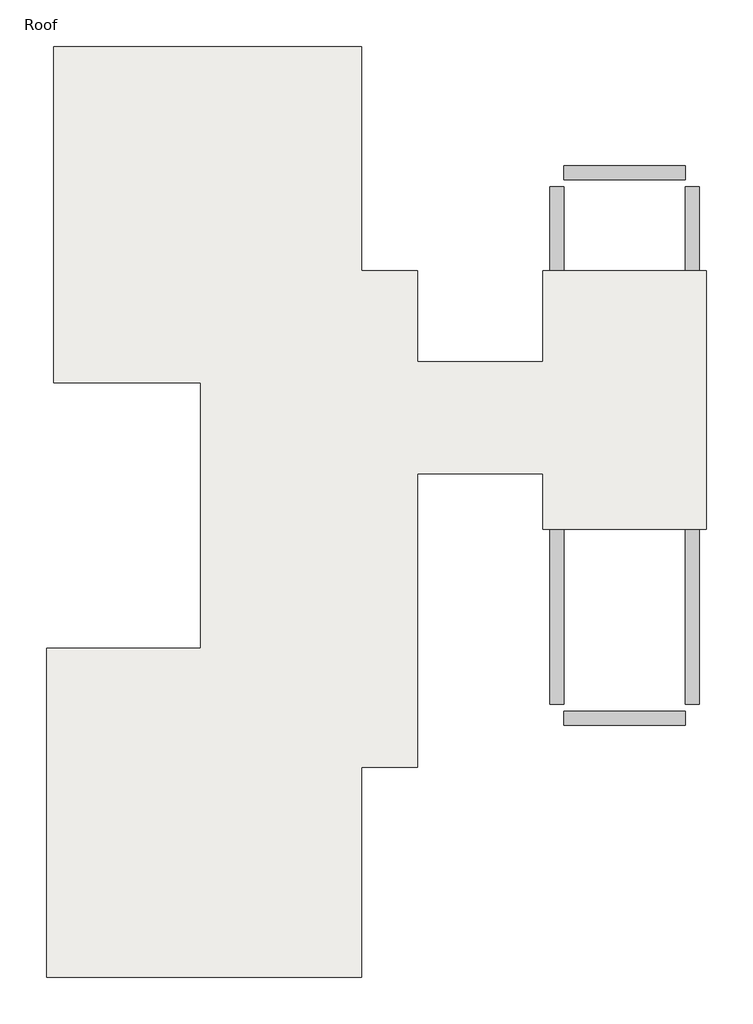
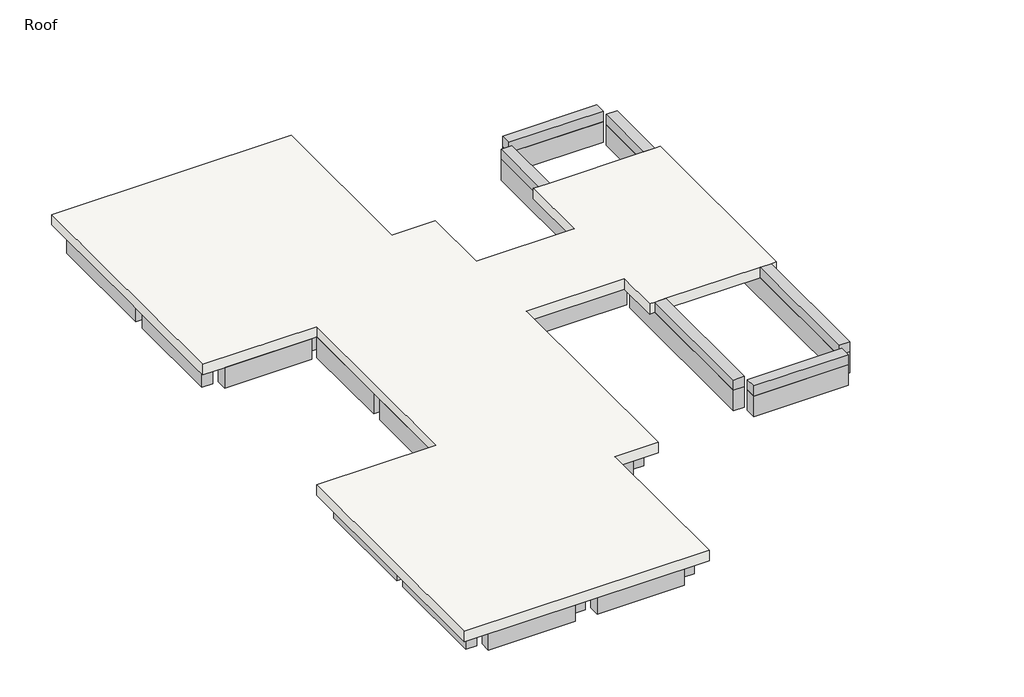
# One storey: 51 beams, 1 slab.
"""IFC4 building model written with IfcOpenShell, lengths in millimetres."""

from ifc_helpers import new_model, si_unit, frame, origin, place, context, project, spatial, polyline, outline, extrude, faceted_brep, element, save

model = new_model("IFC4")

# Units and contexts
model_context = context("Model", 3, world=origin())
ifc_project = project(units=[si_unit("LENGTHUNIT", "METRE", prefix="MILLI")], contexts=[model_context])

# Site, building, storey
site = spatial("IfcSite", under=ifc_project)
building = spatial("IfcBuilding", under=site)
storey = spatial("IfcBuildingStorey", under=building, Name="Roof", Elevation=7620.0)

# Beams
placement = place(None, origin())
element("IfcBeam", 1, ObjectType="Concrete-Rectangular Beam : 12 x 24", at=placement, inside=storey, context=model_context, shape_type="SweptSolid", body=[
    extrude(outline(polyline([(-28276.2572388, 22716.8740068), (-28276.2572388, 23021.6740068), (-25837.8572388, 23021.6740068), (-25837.8572388, 22716.8740068), (-28276.2572388, 22716.8740068)])), frame((0.0, 0.0, 6705.6), z_axis=(0.0, 0.0, 1.0), x_axis=(1.0, 0.0, 0.0)), (0.0, 0.0, 1.0), 609.6),
])
element("IfcBeam", 2, ObjectType="Concrete-Rectangular Beam : 12 x 24", at=placement, inside=storey, context=model_context, shape_type="SweptSolid", body=[
    extrude(outline(polyline([(-25228.2572388, 22716.8740068), (-25228.2572388, 23021.6740068), (-22789.8572388, 23021.6740068), (-22789.8572388, 22716.8740068), (-25228.2572388, 22716.8740068)])), frame((0.0, 0.0, 6705.6), z_axis=(0.0, 0.0, 1.0), x_axis=(1.0, 0.0, 0.0)), (0.0, 0.0, 1.0), 609.6),
])
element("IfcBeam", 3, ObjectType="Concrete-Rectangular Beam : 12 x 24", at=placement, inside=storey, context=model_context, shape_type="SweptSolid", body=[
    extrude(outline(polyline([(-22637.4572388, 22716.8740068), (-22332.6572388, 22716.8740068), (-22332.6572388, 19364.0740068), (-22637.4572388, 19364.0740068), (-22637.4572388, 22716.8740068)])), frame((0.0, 0.0, 6705.6), z_axis=(0.0, 0.0, 1.0), x_axis=(1.0, 0.0, 0.0)), (0.0, 0.0, 1.0), 609.6),
])
element("IfcBeam", 4, ObjectType="Concrete-Rectangular Beam : 12 x 24", at=placement, inside=storey, context=model_context, shape_type="SweptSolid", body=[
    extrude(outline(polyline([(-25228.2572388, 19059.2740068), (-25228.2572388, 19364.0740068), (-22789.8572388, 19364.0740068), (-22789.8572388, 19059.2740068), (-25228.2572388, 19059.2740068)])), frame((0.0, 0.0, 6705.6), z_axis=(0.0, 0.0, 1.0), x_axis=(1.0, 0.0, 0.0)), (0.0, 0.0, 1.0), 609.6),
])
element("IfcBeam", 5, ObjectType="Concrete-Rectangular Beam : 12 x 24", at=placement, inside=storey, context=model_context, shape_type="SweptSolid", body=[
    extrude(outline(polyline([(-25380.6572388, 22716.8740068), (-25380.6572388, 19364.0740068), (-25685.4572388, 19364.0740068), (-25685.4572388, 22716.8740068), (-25380.6572388, 22716.8740068)])), frame((0.0, 0.0, 6705.6), z_axis=(0.0, 0.0, 1.0), x_axis=(1.0, 0.0, 0.0)), (0.0, 0.0, 1.0), 609.6),
])
element("IfcBeam", 6, ObjectType="Concrete-Rectangular Beam : 12 x 24", at=placement, inside=storey, context=model_context, shape_type="SweptSolid", body=[
    extrude(outline(polyline([(-28276.2572388, 19059.2740068), (-28276.2572388, 19364.0740068), (-25837.8572388, 19364.0740068), (-25837.8572388, 19059.2740068), (-28276.2572388, 19059.2740068)])), frame((0.0, 0.0, 6705.6), z_axis=(0.0, 0.0, 1.0), x_axis=(1.0, 0.0, 0.0)), (0.0, 0.0, 1.0), 609.6),
])
element("IfcBeam", 7, ObjectType="Concrete-Rectangular Beam : 12 x 24", at=placement, inside=storey, context=model_context, shape_type="SweptSolid", body=[
    extrude(outline(polyline([(-28733.4572388, 22716.8740068), (-28428.6572388, 22716.8740068), (-28428.6572388, 19364.0740068), (-28733.4572388, 19364.0740068), (-28733.4572388, 22716.8740068)])), frame((0.0, 0.0, 6705.6), z_axis=(0.0, 0.0, 1.0), x_axis=(1.0, 0.0, 0.0)), (0.0, 0.0, 1.0), 609.6),
])
element("IfcBeam", 8, ObjectType="Concrete-Rectangular Beam : 12 x 24", at=placement, inside=storey, context=model_context, shape_type="SweptSolid", body=[
    extrude(outline(polyline([(-28733.4572388, 19059.2740068), (-28428.6572388, 19059.2740068), (-28428.6572388, 16163.6740068), (-28733.4572388, 16163.6740068), (-28733.4572388, 19059.2740068)])), frame((0.0, 0.0, 6705.6), z_axis=(0.0, 0.0, 1.0), x_axis=(1.0, 0.0, 0.0)), (0.0, 0.0, 1.0), 609.6),
])
element("IfcBeam", 9, ObjectType="Concrete-Rectangular Beam : 12 x 24", at=placement, inside=storey, context=model_context, shape_type="SweptSolid", body=[
    extrude(outline(polyline([(-28276.2572388, 15858.8740068), (-28276.2572388, 16163.6740068), (-25837.8572388, 16163.6740068), (-25837.8572388, 15858.8740068), (-28276.2572388, 15858.8740068)])), frame((0.0, 0.0, 6705.6), z_axis=(0.0, 0.0, 1.0), x_axis=(1.0, 0.0, 0.0)), (0.0, 0.0, 1.0), 609.6),
])
element("IfcBeam", 10, ObjectType="Concrete-Rectangular Beam : 12 x 24", at=placement, inside=storey, context=model_context, shape_type="SweptSolid", body=[
    extrude(outline(polyline([(-25685.4572388, 19059.2740068), (-25380.6572388, 19059.2740068), (-25380.6572388, 16163.6740068), (-25685.4572388, 16163.6740068), (-25685.4572388, 19059.2740068)])), frame((0.0, 0.0, 6705.6), z_axis=(0.0, 0.0, 1.0), x_axis=(1.0, 0.0, 0.0)), (0.0, 0.0, 1.0), 609.6),
])
element("IfcBeam", 11, ObjectType="Concrete-Rectangular Beam : 12 x 24", at=placement, inside=storey, context=model_context, shape_type="SweptSolid", body=[
    extrude(outline(polyline([(-25228.2572388, 15858.8740068), (-25228.2572388, 16163.6740068), (-21570.6572388, 16163.6740068), (-21570.6572388, 15858.8740068), (-25228.2572388, 15858.8740068)])), frame((0.0, 0.0, 6705.6), z_axis=(0.0, 0.0, 1.0), x_axis=(1.0, 0.0, 0.0)), (0.0, 0.0, 1.0), 609.6),
])
element("IfcBeam", 12, ObjectType="Concrete-Rectangular Beam : 12 x 24", at=placement, inside=storey, context=model_context, shape_type="SweptSolid", body=[
    extrude(outline(polyline([(-21418.2572388, 17840.0740068), (-21113.4572388, 17840.0740068), (-21113.4572388, 16163.6740068), (-21418.2572388, 16163.6740068), (-21418.2572388, 17840.0740068)])), frame((0.0, 0.0, 6705.6), z_axis=(0.0, 0.0, 1.0), x_axis=(1.0, 0.0, 0.0)), (0.0, 0.0, 1.0), 609.6),
])
element("IfcBeam", 13, ObjectType="Concrete-Rectangular Beam : 12 x 24", at=placement, inside=storey, context=model_context, shape_type="Brep", body=[
    faceted_brep([(-22637.4572388, 18144.8740068, 7315.2), (-22637.4572388, 17840.0740068, 7315.2), (-21570.6572388, 17840.0740068, 7315.2), (-21570.6572388, 18144.8740068, 7315.2), (-22332.6572388, 18144.8740068, 7315.2), (-22637.4572388, 18144.8740068, 6705.6), (-21570.6572388, 18144.8740068, 6705.6), (-22332.6572388, 18144.8740068, 6705.6), (-22637.4572388, 17840.0740068, 6705.6), (-21570.6572388, 17840.0740068, 6705.6)], [[[0, 1, 2, 3, 4]], [[5, 0, 4, 3, 6, 7]], [[8, 5, 7, 6, 9]], [[1, 8, 9, 2]], [[3, 2, 9, 6]], [[1, 0, 5, 8]]]),
])
element("IfcBeam", 14, ObjectType="Concrete-Rectangular Beam : 12 x 24", at=placement, inside=storey, context=model_context, shape_type="SweptSolid", body=[
    extrude(outline(polyline([(-22637.4572388, 19059.2740068), (-22332.6572388, 19059.2740068), (-22332.6572388, 18144.8740068), (-22637.4572388, 18144.8740068), (-22637.4572388, 19059.2740068)])), frame((0.0, 0.0, 6705.6), z_axis=(0.0, 0.0, 1.0), x_axis=(1.0, 0.0, 0.0)), (0.0, 0.0, 1.0), 609.6),
])
element("IfcBeam", 15, ObjectType="Concrete-Rectangular Beam : 12 x 24", at=placement, inside=storey, context=model_context, shape_type="SweptSolid", body=[
    extrude(outline(polyline([(-20961.0572388, 15858.8740068), (-20961.0572388, 16163.6740068), (-18065.4572388, 16163.6740068), (-18065.4572388, 15858.8740068), (-20961.0572388, 15858.8740068)])), frame((0.0, 0.0, 6705.6), z_axis=(0.0, 0.0, 1.0), x_axis=(1.0, 0.0, 0.0)), (0.0, 0.0, 1.0), 609.6),
])
element("IfcBeam", 16, ObjectType="Concrete-Rectangular Beam : 12 x 24", at=placement, inside=storey, context=model_context, shape_type="SweptSolid", body=[
    extrude(outline(polyline([(-17760.6572388, 15858.8740068), (-17760.6572388, 16163.6740068), (-15119.0572388, 16163.6740068), (-15119.0572388, 15858.8740068), (-17760.6572388, 15858.8740068)])), frame((0.0, 0.0, 6705.6), z_axis=(0.0, 0.0, 1.0), x_axis=(1.0, 0.0, 0.0)), (0.0, 0.0, 1.0), 609.6),
])
element("IfcBeam", 17, ObjectType="Concrete-Rectangular Beam : 12 x 24", at=placement, inside=storey, context=model_context, shape_type="Brep", body=[
    faceted_brep([(-21113.4572388, 15858.8740068, 7315.2), (-21418.2572388, 15858.8740068, 7315.2), (-21418.2572388, 13115.6740068, 7315.2), (-21113.4572388, 13115.6740068, 7315.2), (-21113.4572388, 14030.0740068, 7315.2), (-21113.4572388, 14334.8740068, 7315.2), (-21113.4572388, 15858.8740068, 6705.6), (-21113.4572388, 13115.6740068, 6705.6), (-21113.4572388, 14030.0740068, 6705.6), (-21113.4572388, 14334.8740068, 6705.6), (-21418.2572388, 15858.8740068, 6705.6), (-21418.2572388, 13115.6740068, 6705.6)], [[[0, 1, 2, 3, 4, 5]], [[6, 0, 5, 4, 3, 7, 8, 9]], [[10, 6, 9, 8, 7, 11]], [[1, 10, 11, 2]], [[10, 1, 0, 6]], [[3, 2, 11, 7]]]),
])
element("IfcBeam", 18, ObjectType="Concrete-Rectangular Beam : 12 x 24", at=placement, inside=storey, context=model_context, shape_type="SweptSolid", body=[
    extrude(outline(polyline([(-18065.4572388, 14334.8740068), (-18065.4572388, 14030.0740068), (-21113.4572388, 14030.0740068), (-21113.4572388, 14334.8740068), (-18065.4572388, 14334.8740068)])), frame((0.0, 0.0, 6705.6), z_axis=(0.0, 0.0, 1.0), x_axis=(1.0, 0.0, 0.0)), (0.0, 0.0, 1.0), 609.6),
])
element("IfcBeam", 19, ObjectType="Concrete-Rectangular Beam : 12 x 24", at=placement, inside=storey, context=model_context, shape_type="SweptSolid", body=[
    extrude(outline(polyline([(-17760.6572388, 14030.0740068), (-17760.6572388, 14334.8740068), (-15119.0572388, 14334.8740068), (-15119.0572388, 14030.0740068), (-17760.6572388, 14030.0740068)])), frame((0.0, 0.0, 6705.6), z_axis=(0.0, 0.0, 1.0), x_axis=(1.0, 0.0, 0.0)), (0.0, 0.0, 1.0), 609.6),
])
element("IfcBeam", 20, ObjectType="Concrete-Rectangular Beam : 12 x 24", at=placement, inside=storey, context=model_context, shape_type="SweptSolid", body=[
    extrude(outline(polyline([(-25685.4572388, 15858.8740068), (-25380.6572388, 15858.8740068), (-25380.6572388, 13115.6740068), (-25685.4572388, 13115.6740068), (-25685.4572388, 15858.8740068)])), frame((0.0, 0.0, 6705.6), z_axis=(0.0, 0.0, 1.0), x_axis=(1.0, 0.0, 0.0)), (0.0, 0.0, 1.0), 609.6),
])
element("IfcBeam", 21, ObjectType="Concrete-Rectangular Beam : 12 x 24", at=placement, inside=storey, context=model_context, shape_type="SweptSolid", body=[
    extrude(outline(polyline([(-25228.2572388, 12810.8740068), (-25228.2572388, 13115.6740068), (-21570.6572388, 13115.6740068), (-21570.6572388, 12810.8740068), (-25228.2572388, 12810.8740068)])), frame((0.0, 0.0, 6705.6), z_axis=(0.0, 0.0, 1.0), x_axis=(1.0, 0.0, 0.0)), (0.0, 0.0, 1.0), 609.6),
])
element("IfcBeam", 22, ObjectType="Concrete-Rectangular Beam : 12 x 24", at=placement, inside=storey, context=model_context, shape_type="SweptSolid", body=[
    extrude(outline(polyline([(-25685.4572388, 12810.8740068), (-25380.6572388, 12810.8740068), (-25380.6572388, 10067.6740068), (-25685.4572388, 10067.6740068), (-25685.4572388, 12810.8740068)])), frame((0.0, 0.0, 6705.6), z_axis=(0.0, 0.0, 1.0), x_axis=(1.0, 0.0, 0.0)), (0.0, 0.0, 1.0), 609.6),
])
element("IfcBeam", 23, ObjectType="Concrete-Rectangular Beam : 12 x 24", at=placement, inside=storey, context=model_context, shape_type="SweptSolid", body=[
    extrude(outline(polyline([(-25228.2572388, 9762.8740068), (-25228.2572388, 10067.6740068), (-21570.6572388, 10067.6740068), (-21570.6572388, 9762.8740068), (-25228.2572388, 9762.8740068)])), frame((0.0, 0.0, 6705.6), z_axis=(0.0, 0.0, 1.0), x_axis=(1.0, 0.0, 0.0)), (0.0, 0.0, 1.0), 609.6),
])
element("IfcBeam", 24, ObjectType="Concrete-Rectangular Beam : 12 x 24", at=placement, inside=storey, context=model_context, shape_type="SweptSolid", body=[
    extrude(outline(polyline([(-21113.4572388, 10067.6740068), (-21418.2572388, 10067.6740068), (-21418.2572388, 12810.8740068), (-21113.4572388, 12810.8740068), (-21113.4572388, 10067.6740068)])), frame((0.0, 0.0, 6705.6), z_axis=(0.0, 0.0, 1.0), x_axis=(1.0, 0.0, 0.0)), (0.0, 0.0, 1.0), 609.6),
])
element("IfcBeam", 25, ObjectType="Concrete-Rectangular Beam : 12 x 24", at=placement, inside=storey, context=model_context, shape_type="SweptSolid", body=[
    extrude(outline(polyline([(-28276.2572388, 9762.8740068), (-28276.2572388, 10067.6740068), (-25837.8572388, 10067.6740068), (-25837.8572388, 9762.8740068), (-28276.2572388, 9762.8740068)])), frame((0.0, 0.0, 6705.6), z_axis=(0.0, 0.0, 1.0), x_axis=(1.0, 0.0, 0.0)), (0.0, 0.0, 1.0), 609.6),
])
element("IfcBeam", 26, ObjectType="Concrete-Rectangular Beam : 12 x 24", at=placement, inside=storey, context=model_context, shape_type="SweptSolid", body=[
    extrude(outline(polyline([(-28733.4572388, 9762.8740068), (-28428.6572388, 9762.8740068), (-28428.6572388, 6714.8740068), (-28733.4572388, 6714.8740068), (-28733.4572388, 9762.8740068)])), frame((0.0, 0.0, 6705.6), z_axis=(0.0, 0.0, 1.0), x_axis=(1.0, 0.0, 0.0)), (0.0, 0.0, 1.0), 609.6),
])
element("IfcBeam", 27, ObjectType="Concrete-Rectangular Beam : 12 x 24", at=placement, inside=storey, context=model_context, shape_type="SweptSolid", body=[
    extrude(outline(polyline([(-28276.2572388, 6410.0740068), (-28276.2572388, 6714.8740068), (-25837.8572388, 6714.8740068), (-25837.8572388, 6410.0740068), (-28276.2572388, 6410.0740068)])), frame((0.0, 0.0, 6705.6), z_axis=(0.0, 0.0, 1.0), x_axis=(1.0, 0.0, 0.0)), (0.0, 0.0, 1.0), 609.6),
])
element("IfcBeam", 28, ObjectType="Concrete-Rectangular Beam : 12 x 24", at=placement, inside=storey, context=model_context, shape_type="SweptSolid", body=[
    extrude(outline(polyline([(-25685.4572388, 9762.8740068), (-25380.6572388, 9762.8740068), (-25380.6572388, 6714.8740068), (-25685.4572388, 6714.8740068), (-25685.4572388, 9762.8740068)])), frame((0.0, 0.0, 6705.6), z_axis=(0.0, 0.0, 1.0), x_axis=(1.0, 0.0, 0.0)), (0.0, 0.0, 1.0), 609.6),
])
element("IfcBeam", 29, ObjectType="Concrete-Rectangular Beam : 12 x 24", at=placement, inside=storey, context=model_context, shape_type="SweptSolid", body=[
    extrude(outline(polyline([(-25228.2572388, 6410.0740068), (-25228.2572388, 6714.8740068), (-22789.8572388, 6714.8740068), (-22789.8572388, 6410.0740068), (-25228.2572388, 6410.0740068)])), frame((0.0, 0.0, 6705.6), z_axis=(0.0, 0.0, 1.0), x_axis=(1.0, 0.0, 0.0)), (0.0, 0.0, 1.0), 609.6),
])
element("IfcBeam", 30, ObjectType="Concrete-Rectangular Beam : 12 x 24", at=placement, inside=storey, context=model_context, shape_type="SweptSolid", body=[
    extrude(outline(polyline([(-21418.2572388, 9762.8740068), (-21113.4572388, 9762.8740068), (-21113.4572388, 7934.0740068), (-21418.2572388, 7934.0740068), (-21418.2572388, 9762.8740068)])), frame((0.0, 0.0, 6705.6), z_axis=(0.0, 0.0, 1.0), x_axis=(1.0, 0.0, 0.0)), (0.0, 0.0, 1.0), 609.6),
])
element("IfcBeam", 31, ObjectType="Concrete-Rectangular Beam : 12 x 24", at=placement, inside=storey, context=model_context, shape_type="Brep", body=[
    faceted_brep([(-22637.4572388, 7934.0740068, 7315.2), (-22637.4572388, 7629.2740068, 7315.2), (-22332.6572388, 7629.2740068, 7315.2), (-21570.6572388, 7629.2740068, 7315.2), (-21570.6572388, 7934.0740068, 7315.2), (-22637.4572388, 7934.0740068, 6705.6), (-21570.6572388, 7934.0740068, 6705.6), (-22637.4572388, 7629.2740068, 6705.6), (-21570.6572388, 7629.2740068, 6705.6), (-22332.6572388, 7629.2740068, 6705.6)], [[[0, 1, 2, 3, 4]], [[5, 0, 4, 6]], [[7, 5, 6, 8, 9]], [[1, 7, 9, 8, 3, 2]], [[4, 3, 8, 6]], [[1, 0, 5, 7]]]),
])
element("IfcBeam", 32, ObjectType="Concrete-Rectangular Beam : 12 x 24", at=placement, inside=storey, context=model_context, shape_type="SweptSolid", body=[
    extrude(outline(polyline([(-22332.6572388, 6714.8740068), (-22637.4572388, 6714.8740068), (-22637.4572388, 7629.2740068), (-22332.6572388, 7629.2740068), (-22332.6572388, 6714.8740068)])), frame((0.0, 0.0, 6705.6), z_axis=(0.0, 0.0, 1.0), x_axis=(1.0, 0.0, 0.0)), (0.0, 0.0, 1.0), 609.6),
])
element("IfcBeam", 33, ObjectType="Concrete-Rectangular Beam : 12 x 24", at=placement, inside=storey, context=model_context, shape_type="SweptSolid", body=[
    extrude(outline(polyline([(-22637.4572388, 6410.0740068), (-22332.6572388, 6410.0740068), (-22332.6572388, 3362.0740068), (-22637.4572388, 3362.0740068), (-22637.4572388, 6410.0740068)])), frame((0.0, 0.0, 6705.6), z_axis=(0.0, 0.0, 1.0), x_axis=(1.0, 0.0, 0.0)), (0.0, 0.0, 1.0), 609.6),
])
element("IfcBeam", 34, ObjectType="Concrete-Rectangular Beam : 12 x 24", at=placement, inside=storey, context=model_context, shape_type="SweptSolid", body=[
    extrude(outline(polyline([(-25228.2572388, 3057.2740068), (-25228.2572388, 3362.0740068), (-22789.8572388, 3362.0740068), (-22789.8572388, 3057.2740068), (-25228.2572388, 3057.2740068)])), frame((0.0, 0.0, 6705.6), z_axis=(0.0, 0.0, 1.0), x_axis=(1.0, 0.0, 0.0)), (0.0, 0.0, 1.0), 609.6),
])
element("IfcBeam", 35, ObjectType="Concrete-Rectangular Beam : 12 x 24", at=placement, inside=storey, context=model_context, shape_type="SweptSolid", body=[
    extrude(outline(polyline([(-25685.4572388, 6410.0740068), (-25380.6572388, 6410.0740068), (-25380.6572388, 3362.0740068), (-25685.4572388, 3362.0740068), (-25685.4572388, 6410.0740068)])), frame((0.0, 0.0, 6705.6), z_axis=(0.0, 0.0, 1.0), x_axis=(1.0, 0.0, 0.0)), (0.0, 0.0, 1.0), 609.6),
])
element("IfcBeam", 36, ObjectType="Concrete-Rectangular Beam : 12 x 24", at=placement, inside=storey, context=model_context, shape_type="SweptSolid", body=[
    extrude(outline(polyline([(-28733.4572388, 6410.0740068), (-28428.6572388, 6410.0740068), (-28428.6572388, 3362.0740068), (-28733.4572388, 3362.0740068), (-28733.4572388, 6410.0740068)])), frame((0.0, 0.0, 6705.6), z_axis=(0.0, 0.0, 1.0), x_axis=(1.0, 0.0, 0.0)), (0.0, 0.0, 1.0), 609.6),
])
element("IfcBeam", 37, ObjectType="Concrete-Rectangular Beam : 12 x 24", at=placement, inside=storey, context=model_context, shape_type="SweptSolid", body=[
    extrude(outline(polyline([(-28276.2572388, 3057.2740068), (-28276.2572388, 3362.0740068), (-25837.8572388, 3362.0740068), (-25837.8572388, 3057.2740068), (-28276.2572388, 3057.2740068)])), frame((0.0, 0.0, 6705.6), z_axis=(0.0, 0.0, 1.0), x_axis=(1.0, 0.0, 0.0)), (0.0, 0.0, 1.0), 609.6),
])
element("IfcBeam", 38, ObjectType="Concrete-Rectangular Beam : 12 x 24", at=placement, inside=storey, context=model_context, shape_type="Brep", body=[
    faceted_brep([(-18065.4572388, 16316.0740068, 7315.2), (-17760.6572388, 16316.0740068, 7315.2), (-17760.6572388, 18297.2740068, 7315.2), (-17760.6572388, 20126.0740068, 7315.2), (-18065.4572388, 20126.0740068, 7315.2), (-18065.4572388, 18297.2740068, 7315.2), (-17760.6572388, 16316.0740068, 6705.6), (-17760.6572388, 20126.0740068, 6705.6), (-18065.4572388, 16316.0740068, 6705.6), (-18065.4572388, 20126.0740068, 6705.6)], [[[0, 1, 2, 3, 4, 5]], [[1, 6, 7, 3, 2]], [[6, 8, 9, 7]], [[8, 0, 5, 4, 9]], [[4, 3, 7, 9]], [[1, 0, 8, 6]]]),
])
element("IfcBeam", 39, ObjectType="Concrete-Rectangular Beam : 12 x 24", at=placement, inside=storey, context=model_context, shape_type="SweptSolid", body=[
    extrude(outline(polyline([(-17760.6572388, 20278.4740068), (-17760.6572388, 20583.2740068), (-15119.0572388, 20583.2740068), (-15119.0572388, 20278.4740068), (-17760.6572388, 20278.4740068)])), frame((0.0, 0.0, 6705.6), z_axis=(0.0, 0.0, 1.0), x_axis=(1.0, 0.0, 0.0)), (0.0, 0.0, 1.0), 609.6),
])
element("IfcBeam", 40, ObjectType="Concrete-Rectangular Beam : 12 x 24", at=placement, inside=storey, context=model_context, shape_type="Brep", body=[
    faceted_brep([(-15119.0572388, 16316.0740068, 7315.2), (-14814.2572388, 16316.0740068, 7315.2), (-14814.2572388, 18297.2740068, 7315.2), (-14814.2572388, 20126.0740068, 7315.2), (-15119.0572388, 20126.0740068, 7315.2), (-15119.0572388, 18297.2740068, 7315.2), (-15119.0572388, 16316.0740068, 6705.6), (-15119.0572388, 20126.0740068, 6705.6), (-14814.2572388, 16316.0740068, 6705.6), (-14814.2572388, 20126.0740068, 6705.6)], [[[0, 1, 2, 3, 4, 5]], [[6, 0, 5, 4, 7]], [[8, 6, 7, 9]], [[1, 8, 9, 3, 2]], [[4, 3, 9, 7]], [[1, 0, 6, 8]]]),
])
element("IfcBeam", 41, ObjectType="Concrete-Rectangular Beam : 12 x 24", at=placement, inside=storey, context=model_context, shape_type="SweptSolid", body=[
    extrude(outline(polyline([(-15119.0572388, 15706.4740068), (-14814.2572388, 15706.4740068), (-14814.2572388, 14487.2740068), (-15119.0572388, 14487.2740068), (-15119.0572388, 15706.4740068)])), frame((0.0, 0.0, 6705.6), z_axis=(0.0, 0.0, 1.0), x_axis=(1.0, 0.0, 0.0)), (0.0, 0.0, 1.0), 609.6),
])
element("IfcBeam", 42, ObjectType="Concrete-Rectangular Beam : 12 x 24", at=placement, inside=storey, context=model_context, shape_type="Brep", body=[
    faceted_brep([(-14814.2572388, 13877.6740068, 7315.2), (-15119.0572388, 13877.6740068, 7315.2), (-15119.0572388, 12658.4740068, 7315.2), (-15119.0572388, 8848.4740068, 7315.2), (-14814.2572388, 8848.4740068, 7315.2), (-14814.2572388, 12658.4740068, 7315.2), (-15119.0572388, 13877.6740068, 6705.6), (-15119.0572388, 8848.4740068, 6705.6), (-14814.2572388, 13877.6740068, 6705.6), (-14814.2572388, 8848.4740068, 6705.6)], [[[0, 1, 2, 3, 4, 5]], [[1, 6, 7, 3, 2]], [[6, 8, 9, 7]], [[8, 0, 5, 4, 9]], [[4, 3, 7, 9]], [[1, 0, 8, 6]]]),
])
element("IfcBeam", 43, ObjectType="Concrete-Rectangular Beam : 12 x 24", at=placement, inside=storey, context=model_context, shape_type="SweptSolid", body=[
    extrude(outline(polyline([(-17760.6572388, 8391.2740068), (-17760.6572388, 8696.0740068), (-15119.0572388, 8696.0740068), (-15119.0572388, 8391.2740068), (-17760.6572388, 8391.2740068)])), frame((0.0, 0.0, 6705.6), z_axis=(0.0, 0.0, 1.0), x_axis=(1.0, 0.0, 0.0)), (0.0, 0.0, 1.0), 609.6),
])
element("IfcBeam", 44, ObjectType="Concrete-Rectangular Beam : 12 x 24", at=placement, inside=storey, context=model_context, shape_type="Brep", body=[
    faceted_brep([(-17760.6572388, 13877.6740068, 7315.2), (-18065.4572388, 13877.6740068, 7315.2), (-18065.4572388, 12658.4740068, 7315.2), (-18065.4572388, 8848.4740068, 7315.2), (-17760.6572388, 8848.4740068, 7315.2), (-17760.6572388, 12658.4740068, 7315.2), (-17760.6572388, 13877.6740068, 6705.6), (-17760.6572388, 8848.4740068, 6705.6), (-18065.4572388, 13877.6740068, 6705.6), (-18065.4572388, 8848.4740068, 6705.6)], [[[0, 1, 2, 3, 4, 5]], [[6, 0, 5, 4, 7]], [[8, 6, 7, 9]], [[1, 8, 9, 3, 2]], [[4, 3, 9, 7]], [[1, 0, 6, 8]]]),
])
element("IfcBeam", 45, ObjectType="Concrete-Rectangular Beam : 12 x 24", at=placement, inside=storey, context=model_context, shape_type="SweptSolid", body=[
    extrude(outline(polyline([(-18065.4572388, 15706.4740068), (-17760.6572388, 15706.4740068), (-17760.6572388, 14487.2740068), (-18065.4572388, 14487.2740068), (-18065.4572388, 15706.4740068)])), frame((0.0, 0.0, 6705.6), z_axis=(0.0, 0.0, 1.0), x_axis=(1.0, 0.0, 0.0)), (0.0, 0.0, 1.0), 609.6),
])
element("IfcBeam", 46, ObjectType="Concrete-Rectangular Beam : 12 x 24", at=placement, inside=storey, context=model_context, shape_type="SweptSolid", body=[
    extrude(outline(polyline([(-17760.6572388, 8848.4740068), (-18065.4572388, 8848.4740068), (-18065.4572388, 12658.4740068), (-17760.6572388, 12658.4740068), (-17760.6572388, 8848.4740068)])), frame((0.0, 0.0, 7315.2), z_axis=(0.0, 0.0, 1.0), x_axis=(1.0, 0.0, 0.0)), (0.0, 0.0, 1.0), 304.8),
])
element("IfcBeam", 47, ObjectType="Concrete-Rectangular Beam : 12 x 24", at=placement, inside=storey, context=model_context, shape_type="SweptSolid", body=[
    extrude(outline(polyline([(-18065.4572388, 20126.0740068), (-17760.6572388, 20126.0740068), (-17760.6572388, 18297.2740068), (-18065.4572388, 18297.2740068), (-18065.4572388, 20126.0740068)])), frame((0.0, 0.0, 7315.2), z_axis=(0.0, 0.0, 1.0), x_axis=(1.0, 0.0, 0.0)), (0.0, 0.0, 1.0), 304.8),
])
element("IfcBeam", 48, ObjectType="Concrete-Rectangular Beam : 12 x 24", at=placement, inside=storey, context=model_context, shape_type="SweptSolid", body=[
    extrude(outline(polyline([(-17760.6572388, 20278.4740068), (-17760.6572388, 20583.2740068), (-15119.0572388, 20583.2740068), (-15119.0572388, 20278.4740068), (-17760.6572388, 20278.4740068)])), frame((0.0, 0.0, 7315.2), z_axis=(0.0, 0.0, 1.0), x_axis=(1.0, 0.0, 0.0)), (0.0, 0.0, 1.0), 304.8),
])
element("IfcBeam", 49, ObjectType="Concrete-Rectangular Beam : 12 x 24", at=placement, inside=storey, context=model_context, shape_type="SweptSolid", body=[
    extrude(outline(polyline([(-15119.0572388, 20126.0740068), (-14814.2572388, 20126.0740068), (-14814.2572388, 18297.2740068), (-15119.0572388, 18297.2740068), (-15119.0572388, 20126.0740068)])), frame((0.0, 0.0, 7315.2), z_axis=(0.0, 0.0, 1.0), x_axis=(1.0, 0.0, 0.0)), (0.0, 0.0, 1.0), 304.8),
])
element("IfcBeam", 50, ObjectType="Concrete-Rectangular Beam : 12 x 24", at=placement, inside=storey, context=model_context, shape_type="SweptSolid", body=[
    extrude(outline(polyline([(-14814.2572388, 8848.4740068), (-15119.0572388, 8848.4740068), (-15119.0572388, 12658.4740068), (-14814.2572388, 12658.4740068), (-14814.2572388, 8848.4740068)])), frame((0.0, 0.0, 7315.2), z_axis=(0.0, 0.0, 1.0), x_axis=(1.0, 0.0, 0.0)), (0.0, 0.0, 1.0), 304.8),
])
element("IfcBeam", 51, ObjectType="Concrete-Rectangular Beam : 12 x 24", at=placement, inside=storey, context=model_context, shape_type="SweptSolid", body=[
    extrude(outline(polyline([(-17760.6572388, 8391.2740068), (-17760.6572388, 8696.0740068), (-15119.0572388, 8696.0740068), (-15119.0572388, 8391.2740068), (-17760.6572388, 8391.2740068)])), frame((0.0, 0.0, 7315.2), z_axis=(0.0, 0.0, 1.0), x_axis=(1.0, 0.0, 0.0)), (0.0, 0.0, 1.0), 304.8),
])

# Slab
element("IfcSlab", 52, ObjectType="Generic - 12\"", at=placement, inside=storey, context=model_context, shape_type="Brep", body=[
    faceted_brep([(-22180.2572388, 23174.0740068, 7315.2), (-22180.2572388, 23021.6740068, 7315.2), (-22180.2572388, 22716.8740068, 7315.2), (-22180.2572388, 19364.0740068, 7315.2), (-22180.2572388, 19059.2740068, 7315.2), (-22180.2572388, 18297.2740068, 7315.2), (-20961.0572388, 18297.2740068, 7315.2), (-20961.0572388, 18144.8740068, 7315.2), (-20961.0572388, 17840.0740068, 7315.2), (-20961.0572388, 16316.0740068, 7315.2), (-18217.8572388, 16316.0740068, 7315.2), (-18217.8572388, 18297.2740068, 7315.2), (-18065.4572388, 18297.2740068, 7315.2), (-17760.6572388, 18297.2740068, 7315.2), (-15119.0572388, 18297.2740068, 7315.2), (-14814.2572388, 18297.2740068, 7315.2), (-14661.8572388, 18297.2740068, 7315.2), (-14661.8572388, 12658.4740068, 7315.2), (-14814.2572388, 12658.4740068, 7315.2), (-15119.0572388, 12658.4740068, 7315.2), (-17760.6572388, 12658.4740068, 7315.2), (-18065.4572388, 12658.4740068, 7315.2), (-18217.8572388, 12658.4740068, 7315.2), (-18217.8572388, 13877.6740068, 7315.2), (-20961.0572388, 13877.6740068, 7315.2), (-20961.0572388, 13115.6740068, 7315.2), (-20961.0572388, 12810.8740068, 7315.2), (-20961.0572388, 10067.6740068, 7315.2), (-20961.0572388, 9762.8740068, 7315.2), (-20961.0572388, 7934.0740068, 7315.2), (-20961.0572388, 7629.2740068, 7315.2), (-20961.0572388, 7476.8740068, 7315.2), (-22180.2572388, 7476.8740068, 7315.2), (-22180.2572388, 6714.8740068, 7315.2), (-22180.2572388, 6410.0740068, 7315.2), (-22180.2572388, 3362.0740068, 7315.2), (-22180.2572388, 3057.2740068, 7315.2), (-22180.2572388, 2904.8740068, 7315.2), (-29038.2572388, 2904.8740068, 7315.2), (-29038.2572388, 10067.6740068, 7315.2), (-28885.8572388, 10067.6740068, 7315.2), (-28276.2572388, 10067.6740068, 7315.2), (-25837.8572388, 10067.6740068, 7315.2), (-25685.4572388, 10067.6740068, 7315.2), (-25685.4572388, 12810.8740068, 7315.2), (-25685.4572388, 13115.6740068, 7315.2), (-25685.4572388, 15858.8740068, 7315.2), (-25837.8572388, 15858.8740068, 7315.2), (-28276.2572388, 15858.8740068, 7315.2), (-28885.8572388, 15858.8740068, 7315.2), (-28885.8572388, 16163.6740068, 7315.2), (-28885.8572388, 19059.2740068, 7315.2), (-28885.8572388, 19364.0740068, 7315.2), (-28885.8572388, 22716.8740068, 7315.2), (-28885.8572388, 23021.6740068, 7315.2), (-28885.8572388, 23174.0740068, 7315.2), (-22180.2572388, 23174.0740068, 7620.0), (-28885.8572388, 23174.0740068, 7620.0), (-28885.8572388, 15858.8740068, 7620.0), (-25685.4572388, 15858.8740068, 7620.0), (-25685.4572388, 10067.6740068, 7620.0), (-29038.2572388, 10067.6740068, 7620.0), (-29038.2572388, 2904.8740068, 7620.0), (-22180.2572388, 2904.8740068, 7620.0), (-22180.2572388, 7476.8740068, 7620.0), (-20961.0572388, 7476.8740068, 7620.0), (-20961.0572388, 13877.6740068, 7620.0), (-18217.8572388, 13877.6740068, 7620.0), (-18217.8572388, 12658.4740068, 7620.0), (-18065.4572388, 12658.4740068, 7620.0), (-17760.6572388, 12658.4740068, 7620.0), (-15119.0572388, 12658.4740068, 7620.0), (-14814.2572388, 12658.4740068, 7620.0), (-14661.8572388, 12658.4740068, 7620.0), (-14661.8572388, 18297.2740068, 7620.0), (-14814.2572388, 18297.2740068, 7620.0), (-15119.0572388, 18297.2740068, 7620.0), (-17760.6572388, 18297.2740068, 7620.0), (-18065.4572388, 18297.2740068, 7620.0), (-18217.8572388, 18297.2740068, 7620.0), (-18217.8572388, 16316.0740068, 7620.0), (-20961.0572388, 16316.0740068, 7620.0), (-20961.0572388, 18297.2740068, 7620.0), (-22180.2572388, 18297.2740068, 7620.0)], [[[0, 1, 2, 3, 4, 5, 6, 7, 8, 9, 10, 11, 12, 13, 14, 15, 16, 17, 18, 19, 20, 21, 22, 23, 24, 25, 26, 27, 28, 29, 30, 31, 32, 33, 34, 35, 36, 37, 38, 39, 40, 41, 42, 43, 44, 45, 46, 47, 48, 49, 50, 51, 52, 53, 54, 55]], [[56, 57, 58, 59, 60, 61, 62, 63, 64, 65, 66, 67, 68, 69, 70, 71, 72, 73, 74, 75, 76, 77, 78, 79, 80, 81, 82, 83]], [[5, 4, 3, 2, 1, 0, 56, 83]], [[6, 5, 83, 82]], [[9, 8, 7, 6, 82, 81]], [[10, 9, 81, 80]], [[11, 10, 80, 79]], [[16, 15, 14, 13, 12, 11, 79, 78, 77, 76, 75, 74]], [[17, 16, 74, 73]], [[22, 21, 20, 19, 18, 17, 73, 72, 71, 70, 69, 68]], [[23, 22, 68, 67]], [[24, 23, 67, 66]], [[31, 30, 29, 28, 27, 26, 25, 24, 66, 65]], [[32, 31, 65, 64]], [[37, 36, 35, 34, 33, 32, 64, 63]], [[38, 37, 63, 62]], [[39, 38, 62, 61]], [[43, 42, 41, 40, 39, 61, 60]], [[46, 45, 44, 43, 60, 59]], [[49, 48, 47, 46, 59, 58]], [[55, 54, 53, 52, 51, 50, 49, 58, 57]], [[0, 55, 57, 56]]]),
])

save(model, "model.ifc")
